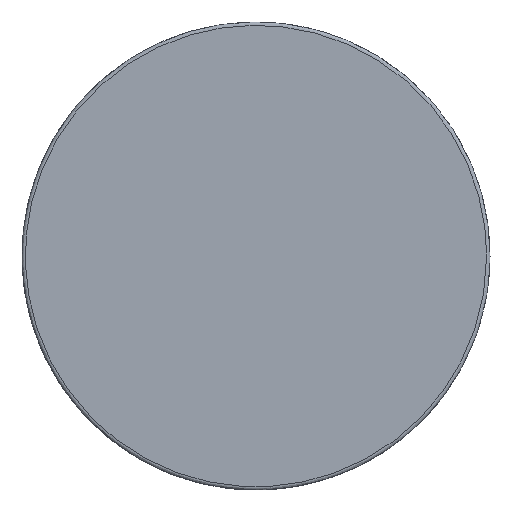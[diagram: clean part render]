
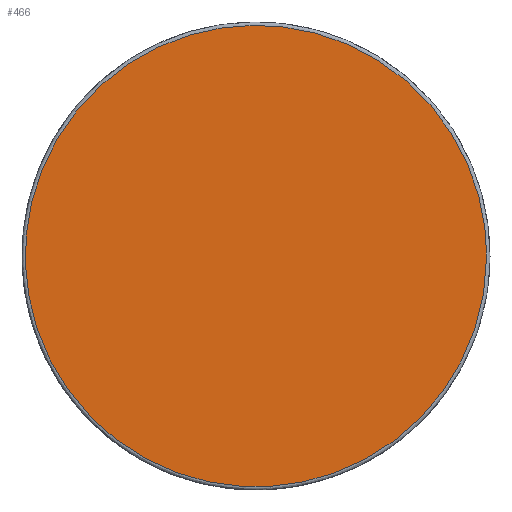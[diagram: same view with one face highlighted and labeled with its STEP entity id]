
A CAD part, top view. The second image highlights one B-rep face of the part: STEP entity #466.
In plain terms, the highlighted planar face has unit normal (0, 0, 1).
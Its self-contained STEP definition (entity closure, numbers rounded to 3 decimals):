
#466=ADVANCED_FACE('',(#719),#3298,.T.);
#719=FACE_OUTER_BOUND('',#972,.T.);
#972=EDGE_LOOP('',(#1245));
#1245=ORIENTED_EDGE('',*,*,#2270,.F.);
#2270=EDGE_CURVE('',#2930,#2930,#2781,.T.);
#2781=(
BOUNDED_CURVE()
B_SPLINE_CURVE(2,(#3964,#3965,#3966,#3967,#3968,#3969,#3970,#3971,#3972),
 .UNSPECIFIED.,.T.,.F.)
B_SPLINE_CURVE_WITH_KNOTS((3,2,2,2,3),(0.,1083.848,2167.696,
3251.543,4335.391),.UNSPECIFIED.)
CURVE()
GEOMETRIC_REPRESENTATION_ITEM()
RATIONAL_B_SPLINE_CURVE((1.,0.707,1.,0.707,1.,0.707,
1.,0.707,1.))
REPRESENTATION_ITEM('')
);
#2930=VERTEX_POINT('',#3947);
#3298=PLANE('',#3546);
#3546=AXIS2_PLACEMENT_3D('',#3872,#3709,$);
#3709=DIRECTION('',(0.,0.,1.));
#3872=CARTESIAN_POINT('',(19059.629,-9549.318,745.024));
#3947=CARTESIAN_POINT('',(20624.629,-10424.318,745.024));
#3964=CARTESIAN_POINT('',(20624.629,-10424.318,745.024));
#3965=CARTESIAN_POINT('',(20624.629,-11114.318,745.024));
#3966=CARTESIAN_POINT('',(19934.629,-11114.318,745.024));
#3967=CARTESIAN_POINT('',(19244.629,-11114.318,745.024));
#3968=CARTESIAN_POINT('',(19244.629,-10424.318,745.024));
#3969=CARTESIAN_POINT('',(19244.629,-9734.318,745.024));
#3970=CARTESIAN_POINT('',(19934.629,-9734.318,745.024));
#3971=CARTESIAN_POINT('',(20624.629,-9734.318,745.024));
#3972=CARTESIAN_POINT('',(20624.629,-10424.318,745.024));
